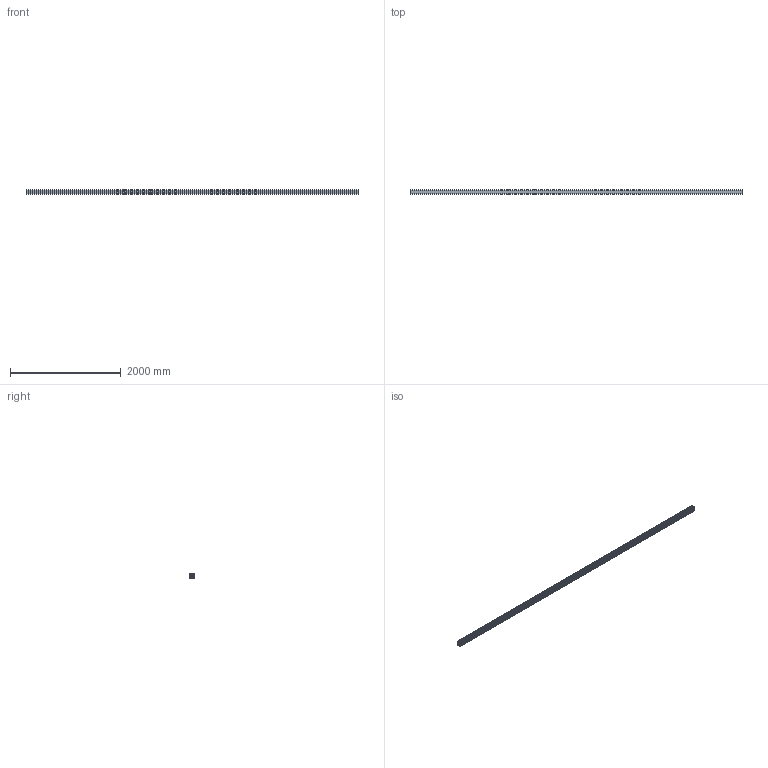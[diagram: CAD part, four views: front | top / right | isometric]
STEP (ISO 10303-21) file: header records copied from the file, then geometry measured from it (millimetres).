
FILE_DESCRIPTION (( 'STEP AP203' ), '1' );
FILE_NAME ('20209020_Profil 8 80x80L 4N90_0.step', '2023-12-05T15:30:47', ( '' ), ( '' ), 'SwSTEP 2.0', 'SolidWorks 2021', '' );
FILE_SCHEMA (( 'CONFIG_CONTROL_DESIGN' ));
Length unit declared in the file: millimetre
Products named in the file (1): 20209020_Profil 8 80x80L 4N90_0
Bounding box: 6000 x 80 x 80 mm (x, y, z)
Volume: 12373147.4 mm3; surface area: 7009176 mm2
Topology: 1 solids, 1 shells, 330 faces, 984 edges, 656 vertices
Faces by surface type: cylinder 172, plane 158
Entity records: 11321 total; most frequent: DIRECTION 1990, CARTESIAN_POINT 1971, ORIENTED_EDGE 1968, EDGE_CURVE 984, AXIS2_PLACEMENT_3D 675, VERTEX_POINT 656, LINE 640, VECTOR 640
